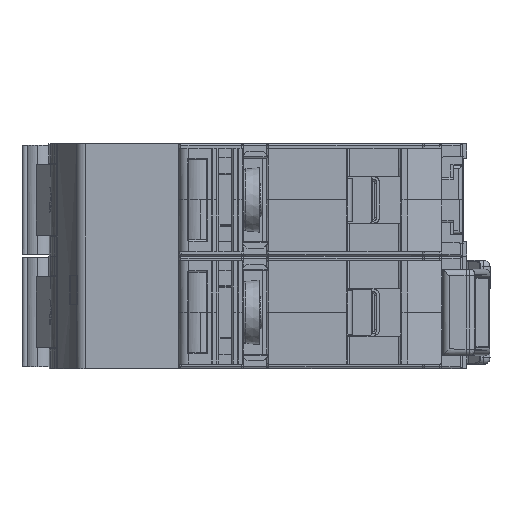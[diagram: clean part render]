
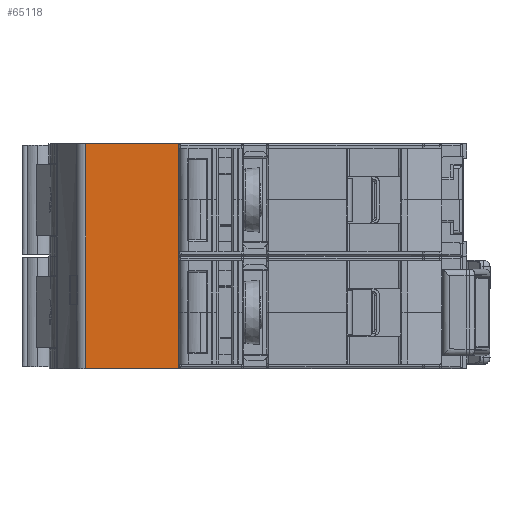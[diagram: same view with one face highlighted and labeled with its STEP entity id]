
A CAD part, left-side view. The second image highlights one B-rep face of the part: STEP entity #65118.
In plain terms, the highlighted planar face has unit normal (-1, 0, 0).
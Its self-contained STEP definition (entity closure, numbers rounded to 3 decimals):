
#26412 = VECTOR ( 'NONE', #80083, 1000. ) ;
#26436 = VECTOR ( 'NONE', #80416, 1000. ) ;
#26621 = VECTOR ( 'NONE', #80410, 1000. ) ;
#26665 = VECTOR ( 'NONE', #80414, 1000. ) ;
#59743 = FACE_OUTER_BOUND ( 'NONE', #84709, .T. ) ;
#59766 = PLANE ( 'NONE',  #122605 ) ;
#59785 = CARTESIAN_POINT ( 'NONE',  ( -29.368, 17.312, -7.32 ) ) ;
#59787 = DIRECTION ( 'NONE',  ( 1., 0., 0. ) ) ;
#59789 = DIRECTION ( 'NONE',  ( 0., 0., -1. ) ) ;
#65118 = ADVANCED_FACE ( 'NONE', ( #59743 ), #59766, .F. ) ;
#74602 = CARTESIAN_POINT ( 'NONE',  ( -29.368, 14.621, 26.277 ) ) ;
#75324 = CARTESIAN_POINT ( 'NONE',  ( -29.368, 29.148, -8.775 ) ) ;
#75467 = CARTESIAN_POINT ( 'NONE',  ( -29.368, 14.621, -8.775 ) ) ;
#80081 = LINE ( 'NONE', #80082, #26412 ) ;
#80082 = CARTESIAN_POINT ( 'NONE',  ( -29.368, 17.312, 26.277 ) ) ;
#80083 = DIRECTION ( 'NONE',  ( 0., -1., 0. ) ) ;
#80400 = LINE ( 'NONE', #80401, #26621 ) ;
#80401 = CARTESIAN_POINT ( 'NONE',  ( -29.368, 29.148, -7.32 ) ) ;
#80406 = LINE ( 'NONE', #80415, #26436 ) ;
#80410 = DIRECTION ( 'NONE',  ( 0., 0., 1. ) ) ;
#80411 = LINE ( 'NONE', #80413, #26665 ) ;
#80413 = CARTESIAN_POINT ( 'NONE',  ( -29.368, 29.148, -8.775 ) ) ;
#80414 = DIRECTION ( 'NONE',  ( 0., -1., 0. ) ) ;
#80415 = CARTESIAN_POINT ( 'NONE',  ( -29.368, 14.621, 7.297 ) ) ;
#80416 = DIRECTION ( 'NONE',  ( 0., 0., 1. ) ) ;
#84709 = EDGE_LOOP ( 'NONE', ( #94488, #94492, #94496, #94500 ) ) ;
#94488 = ORIENTED_EDGE ( 'NONE', *, *, #116565, .F. ) ;
#94492 = ORIENTED_EDGE ( 'NONE', *, *, #116676, .F. ) ;
#94496 = ORIENTED_EDGE ( 'NONE', *, *, #116678, .T. ) ;
#94500 = ORIENTED_EDGE ( 'NONE', *, *, #116679, .T. ) ;
#99912 = VERTEX_POINT ( 'NONE', #147667 ) ;
#100882 = VERTEX_POINT ( 'NONE', #74602 ) ;
#102353 = VERTEX_POINT ( 'NONE', #75324 ) ;
#102663 = VERTEX_POINT ( 'NONE', #75467 ) ;
#116565 = EDGE_CURVE ( 'NONE', #99912, #100882, #80081, .T. ) ;
#116676 = EDGE_CURVE ( 'NONE', #102353, #99912, #80400, .T. ) ;
#116678 = EDGE_CURVE ( 'NONE', #102353, #102663, #80411, .T. ) ;
#116679 = EDGE_CURVE ( 'NONE', #102663, #100882, #80406, .T. ) ;
#122605 = AXIS2_PLACEMENT_3D ( 'NONE', #59785, #59787, #59789 ) ;
#147667 = CARTESIAN_POINT ( 'NONE',  ( -29.368, 29.148, 26.277 ) ) ;
